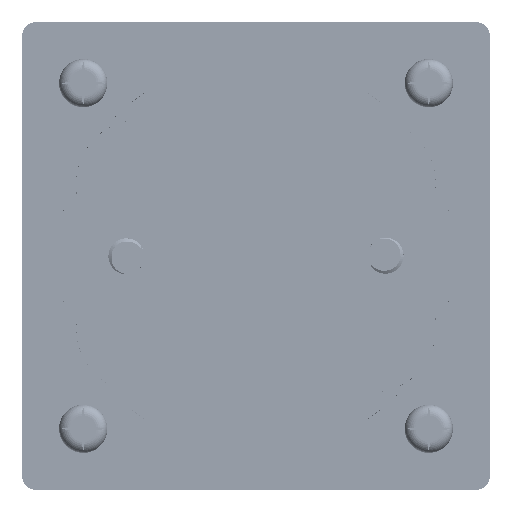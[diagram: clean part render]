
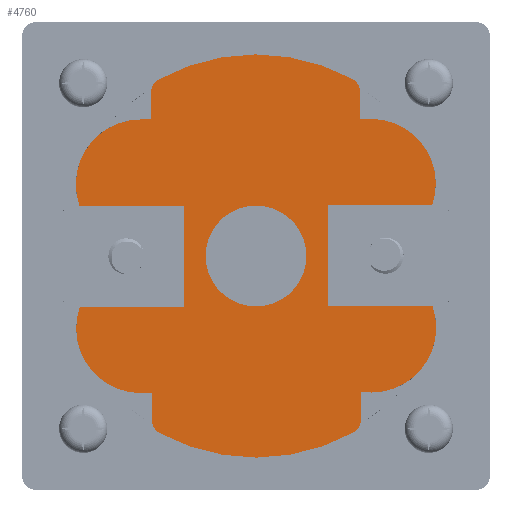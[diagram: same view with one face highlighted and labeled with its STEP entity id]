
A CAD part, front view. The second image highlights one B-rep face of the part: STEP entity #4760.
In plain terms, the highlighted planar face has unit normal (0, -1, 0).
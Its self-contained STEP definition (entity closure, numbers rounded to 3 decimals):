
#2409=FACE_BOUND('',#10032,.T.);
#2410=FACE_BOUND('',#10033,.T.);
#4760=ADVANCED_FACE('',(#2409,#2410),#6119,.F.);
#6119=PLANE('',#40225);
#10032=EDGE_LOOP('',(#25032,#25033,#25034,#25035,#25036,#25037,#25038,#25039,
#25040,#25041,#25042,#25043,#25044,#25045,#25046,#25047,#25048,#25049,#25050,
#25051,#25052,#25053,#25054,#25055,#25056));
#10033=EDGE_LOOP('',(#25057));
#12490=LINE('',#174196,#15167);
#12493=LINE('',#174202,#15170);
#12497=LINE('',#174214,#15174);
#12500=LINE('',#174222,#15177);
#12502=LINE('',#174226,#15179);
#12504=LINE('',#174230,#15181);
#12506=LINE('',#174246,#15183);
#12510=LINE('',#174267,#15187);
#12512=LINE('',#174284,#15189);
#12514=LINE('',#174288,#15191);
#12651=LINE('',#174650,#15328);
#12656=LINE('',#174662,#15333);
#12691=LINE('',#174776,#15368);
#12695=LINE('',#174798,#15372);
#15167=VECTOR('',#48054,1.);
#15170=VECTOR('',#48059,1.);
#15174=VECTOR('',#48071,1.);
#15177=VECTOR('',#48080,1.);
#15179=VECTOR('',#48084,1.);
#15181=VECTOR('',#48088,1.);
#15183=VECTOR('',#48096,1.);
#15187=VECTOR('',#48106,1.);
#15189=VECTOR('',#48116,1.);
#15191=VECTOR('',#48120,1.);
#15328=VECTOR('',#48481,1.);
#15333=VECTOR('',#48496,1.);
#15368=VECTOR('',#48597,1.);
#15372=VECTOR('',#48623,1.);
#25032=ORIENTED_EDGE('',*,*,#34923,.F.);
#25033=ORIENTED_EDGE('',*,*,#34921,.T.);
#25034=ORIENTED_EDGE('',*,*,#34917,.T.);
#25035=ORIENTED_EDGE('',*,*,#35108,.T.);
#25036=ORIENTED_EDGE('',*,*,#35176,.T.);
#25037=ORIENTED_EDGE('',*,*,#35177,.T.);
#25038=ORIENTED_EDGE('',*,*,#35178,.T.);
#25039=ORIENTED_EDGE('',*,*,#35116,.T.);
#25040=ORIENTED_EDGE('',*,*,#34913,.T.);
#25041=ORIENTED_EDGE('',*,*,#34910,.T.);
#25042=ORIENTED_EDGE('',*,*,#34907,.T.);
#25043=ORIENTED_EDGE('',*,*,#34905,.F.);
#25044=ORIENTED_EDGE('',*,*,#34903,.F.);
#25045=ORIENTED_EDGE('',*,*,#34901,.F.);
#25046=ORIENTED_EDGE('',*,*,#34899,.T.);
#25047=ORIENTED_EDGE('',*,*,#34897,.T.);
#25048=ORIENTED_EDGE('',*,*,#35169,.T.);
#25049=ORIENTED_EDGE('',*,*,#35179,.T.);
#25050=ORIENTED_EDGE('',*,*,#35180,.T.);
#25051=ORIENTED_EDGE('',*,*,#35181,.T.);
#25052=ORIENTED_EDGE('',*,*,#35182,.T.);
#25053=ORIENTED_EDGE('',*,*,#34925,.T.);
#25054=ORIENTED_EDGE('',*,*,#34894,.T.);
#25055=ORIENTED_EDGE('',*,*,#34891,.F.);
#25056=ORIENTED_EDGE('',*,*,#34888,.F.);
#25057=ORIENTED_EDGE('',*,*,#34887,.F.);
#29781=VERTEX_POINT('',#174194);
#29782=VERTEX_POINT('',#174197);
#29783=VERTEX_POINT('',#174198);
#29784=VERTEX_POINT('',#174203);
#29786=VERTEX_POINT('',#174209);
#29787=VERTEX_POINT('',#174213);
#29788=VERTEX_POINT('',#174215);
#29789=VERTEX_POINT('',#174219);
#29790=VERTEX_POINT('',#174223);
#29791=VERTEX_POINT('',#174227);
#29792=VERTEX_POINT('',#174231);
#29793=VERTEX_POINT('',#174235);
#29795=VERTEX_POINT('',#174247);
#29797=VERTEX_POINT('',#174259);
#29800=VERTEX_POINT('',#174266);
#29801=VERTEX_POINT('',#174268);
#29803=VERTEX_POINT('',#174281);
#29805=VERTEX_POINT('',#174289);
#29908=VERTEX_POINT('',#174648);
#29912=VERTEX_POINT('',#174663);
#29952=VERTEX_POINT('',#174774);
#29956=VERTEX_POINT('',#174788);
#29957=VERTEX_POINT('',#174790);
#29958=VERTEX_POINT('',#174793);
#29959=VERTEX_POINT('',#174795);
#29960=VERTEX_POINT('',#174797);
#34887=EDGE_CURVE('',#29781,#29781,#37107,.T.);
#34888=EDGE_CURVE('',#29782,#29783,#12490,.T.);
#34891=EDGE_CURVE('',#29783,#29784,#12493,.T.);
#34894=EDGE_CURVE('',#29786,#29784,#37109,.T.);
#34897=EDGE_CURVE('',#29788,#29787,#12497,.T.);
#34899=EDGE_CURVE('',#29789,#29788,#37110,.T.);
#34901=EDGE_CURVE('',#29789,#29790,#12500,.T.);
#34903=EDGE_CURVE('',#29790,#29791,#12502,.T.);
#34905=EDGE_CURVE('',#29791,#29792,#12504,.T.);
#34907=EDGE_CURVE('',#29793,#29792,#37111,.T.);
#34910=EDGE_CURVE('',#29795,#29793,#12506,.T.);
#34913=EDGE_CURVE('',#29797,#29795,#37112,.T.);
#34917=EDGE_CURVE('',#29801,#29800,#12510,.T.);
#34921=EDGE_CURVE('',#29803,#29801,#37114,.T.);
#34923=EDGE_CURVE('',#29803,#29782,#12512,.T.);
#34925=EDGE_CURVE('',#29805,#29786,#12514,.T.);
#35108=EDGE_CURVE('',#29800,#29908,#12651,.T.);
#35116=EDGE_CURVE('',#29912,#29797,#12656,.T.);
#35169=EDGE_CURVE('',#29787,#29952,#12691,.T.);
#35176=EDGE_CURVE('',#29908,#29956,#37182,.T.);
#35177=EDGE_CURVE('',#29956,#29957,#37183,.T.);
#35178=EDGE_CURVE('',#29957,#29912,#37184,.T.);
#35179=EDGE_CURVE('',#29952,#29958,#37185,.T.);
#35180=EDGE_CURVE('',#29958,#29959,#37186,.T.);
#35181=EDGE_CURVE('',#29959,#29960,#37187,.T.);
#35182=EDGE_CURVE('',#29960,#29805,#12695,.T.);
#37107=CIRCLE('',#40041,7.);
#37109=CIRCLE('',#40046,9.);
#37110=CIRCLE('',#40049,9.);
#37111=CIRCLE('',#40054,9.);
#37112=CIRCLE('',#40057,8.96);
#37114=CIRCLE('',#40061,9.);
#37182=CIRCLE('',#40219,2.);
#37183=CIRCLE('',#40220,28.);
#37184=CIRCLE('',#40221,2.);
#37185=CIRCLE('',#40222,2.);
#37186=CIRCLE('',#40223,28.);
#37187=CIRCLE('',#40224,2.);
#40041=AXIS2_PLACEMENT_3D('',#174193,#48050,#48051);
#40046=AXIS2_PLACEMENT_3D('',#174208,#48065,#48066);
#40049=AXIS2_PLACEMENT_3D('',#174218,#48075,#48076);
#40054=AXIS2_PLACEMENT_3D('',#174234,#48092,#48093);
#40057=AXIS2_PLACEMENT_3D('',#174258,#48099,#48100);
#40061=AXIS2_PLACEMENT_3D('',#174280,#48111,#48112);
#40219=AXIS2_PLACEMENT_3D('',#174787,#48611,#48612);
#40220=AXIS2_PLACEMENT_3D('',#174789,#48613,#48614);
#40221=AXIS2_PLACEMENT_3D('',#174791,#48615,#48616);
#40222=AXIS2_PLACEMENT_3D('',#174792,#48617,#48618);
#40223=AXIS2_PLACEMENT_3D('',#174794,#48619,#48620);
#40224=AXIS2_PLACEMENT_3D('',#174796,#48621,#48622);
#40225=AXIS2_PLACEMENT_3D('',#174799,#48624,#48625);
#48050=DIRECTION('',(0.,-1.,0.));
#48051=DIRECTION('',(-1.,0.,-0.003));
#48054=DIRECTION('',(-0.003,0.,1.));
#48059=DIRECTION('',(-1.,0.,-0.003));
#48065=DIRECTION('',(0.,-1.,0.));
#48066=DIRECTION('',(-1.,0.,-0.003));
#48071=DIRECTION('',(-1.,0.,-0.003));
#48075=DIRECTION('',(0.,-1.,0.));
#48076=DIRECTION('',(1.,0.,0.003));
#48080=DIRECTION('',(-1.,0.,-0.003));
#48084=DIRECTION('',(0.003,0.,-1.));
#48088=DIRECTION('',(1.,0.,0.003));
#48092=DIRECTION('',(0.,-1.,0.));
#48093=DIRECTION('',(0.,0.,-1.));
#48096=DIRECTION('',(1.,0.,0.003));
#48099=DIRECTION('',(0.,-1.,0.));
#48100=DIRECTION('',(0.,0.,-1.));
#48106=DIRECTION('',(1.,0.,0.003));
#48111=DIRECTION('',(0.,-1.,0.));
#48112=DIRECTION('',(-0.89,0.,0.456));
#48116=DIRECTION('',(1.,0.,0.003));
#48120=DIRECTION('',(-1.,0.,-0.003));
#48481=DIRECTION('',(0.003,0.,-1.));
#48496=DIRECTION('',(-0.003,0.,1.));
#48597=DIRECTION('',(-0.003,0.,1.));
#48611=DIRECTION('',(0.,-1.,0.));
#48612=DIRECTION('',(1.,0.,0.003));
#48613=DIRECTION('',(0.,-1.,0.));
#48614=DIRECTION('',(1.,0.,0.003));
#48615=DIRECTION('',(0.,-1.,0.));
#48616=DIRECTION('',(1.,0.,0.003));
#48617=DIRECTION('',(0.,-1.,0.));
#48618=DIRECTION('',(1.,0.,0.003));
#48619=DIRECTION('',(0.,-1.,0.));
#48620=DIRECTION('',(1.,0.,0.003));
#48621=DIRECTION('',(0.,-1.,0.));
#48622=DIRECTION('',(1.,0.,0.003));
#48623=DIRECTION('',(0.003,0.,-1.));
#48624=DIRECTION('',(0.,1.,0.));
#48625=DIRECTION('',(0.,0.,1.));
#174193=CARTESIAN_POINT('',(0.,-148.6,0.));
#174194=CARTESIAN_POINT('',(-7.,-148.6,-0.018));
#174196=CARTESIAN_POINT('',(-9.982,-148.6,-7.026));
#174197=CARTESIAN_POINT('',(-9.982,-148.6,-7.026));
#174198=CARTESIAN_POINT('',(-10.018,-148.6,6.974));
#174202=CARTESIAN_POINT('',(-10.018,-148.6,6.974));
#174203=CARTESIAN_POINT('',(-24.503,-148.6,6.937));
#174208=CARTESIAN_POINT('',(-16.026,-148.6,9.959));
#174209=CARTESIAN_POINT('',(-16.049,-148.6,18.959));
#174213=CARTESIAN_POINT('',(14.451,-148.6,19.037));
#174214=CARTESIAN_POINT('',(15.951,-148.6,19.041));
#174215=CARTESIAN_POINT('',(15.951,-148.6,19.041));
#174218=CARTESIAN_POINT('',(15.974,-148.6,10.041));
#174219=CARTESIAN_POINT('',(24.467,-148.6,7.063));
#174222=CARTESIAN_POINT('',(34.164,-148.6,7.088));
#174223=CARTESIAN_POINT('',(9.982,-148.6,7.026));
#174226=CARTESIAN_POINT('',(9.982,-148.6,7.026));
#174227=CARTESIAN_POINT('',(10.018,-148.6,-6.974));
#174230=CARTESIAN_POINT('',(10.018,-148.6,-6.974));
#174231=CARTESIAN_POINT('',(24.503,-148.6,-6.937));
#174234=CARTESIAN_POINT('',(16.026,-148.6,-9.959));
#174235=CARTESIAN_POINT('',(16.119,-148.6,-18.958));
#174246=CARTESIAN_POINT('',(23.752,-148.6,-18.938));
#174247=CARTESIAN_POINT('',(15.978,-148.6,-18.959));
#174258=CARTESIAN_POINT('',(16.02,-148.6,-9.999));
#174259=CARTESIAN_POINT('',(14.548,-148.6,-18.837));
#174266=CARTESIAN_POINT('',(-14.451,-148.6,-19.037));
#174267=CARTESIAN_POINT('',(23.753,-148.6,-18.934));
#174268=CARTESIAN_POINT('',(-15.951,-148.6,-19.041));
#174280=CARTESIAN_POINT('',(-15.974,-148.6,-10.041));
#174281=CARTESIAN_POINT('',(-24.468,-148.6,-7.063));
#174284=CARTESIAN_POINT('',(-34.164,-148.6,-7.088));
#174288=CARTESIAN_POINT('',(-14.549,-148.6,18.963));
#174289=CARTESIAN_POINT('',(-14.549,-148.6,18.963));
#174648=CARTESIAN_POINT('',(-14.441,-148.6,-22.835));
#174650=CARTESIAN_POINT('',(-14.451,-148.6,-19.037));
#174662=CARTESIAN_POINT('',(14.558,-148.6,-22.761));
#174663=CARTESIAN_POINT('',(14.558,-148.6,-22.761));
#174774=CARTESIAN_POINT('',(14.441,-148.6,22.835));
#174776=CARTESIAN_POINT('',(14.451,-148.6,19.037));
#174787=CARTESIAN_POINT('',(-12.441,-148.6,-22.83));
#174788=CARTESIAN_POINT('',(-13.398,-148.6,-24.586));
#174789=CARTESIAN_POINT('',(0.,-148.6,0.));
#174790=CARTESIAN_POINT('',(13.525,-148.6,-24.517));
#174791=CARTESIAN_POINT('',(12.558,-148.6,-22.766));
#174792=CARTESIAN_POINT('',(12.441,-148.6,22.83));
#174793=CARTESIAN_POINT('',(13.398,-148.6,24.586));
#174794=CARTESIAN_POINT('',(0.,-148.6,0.));
#174795=CARTESIAN_POINT('',(-13.525,-148.6,24.517));
#174796=CARTESIAN_POINT('',(-12.558,-148.6,22.766));
#174797=CARTESIAN_POINT('',(-14.558,-148.6,22.761));
#174798=CARTESIAN_POINT('',(-14.558,-148.6,22.761));
#174799=CARTESIAN_POINT('',(23.741,-148.6,-14.593));
